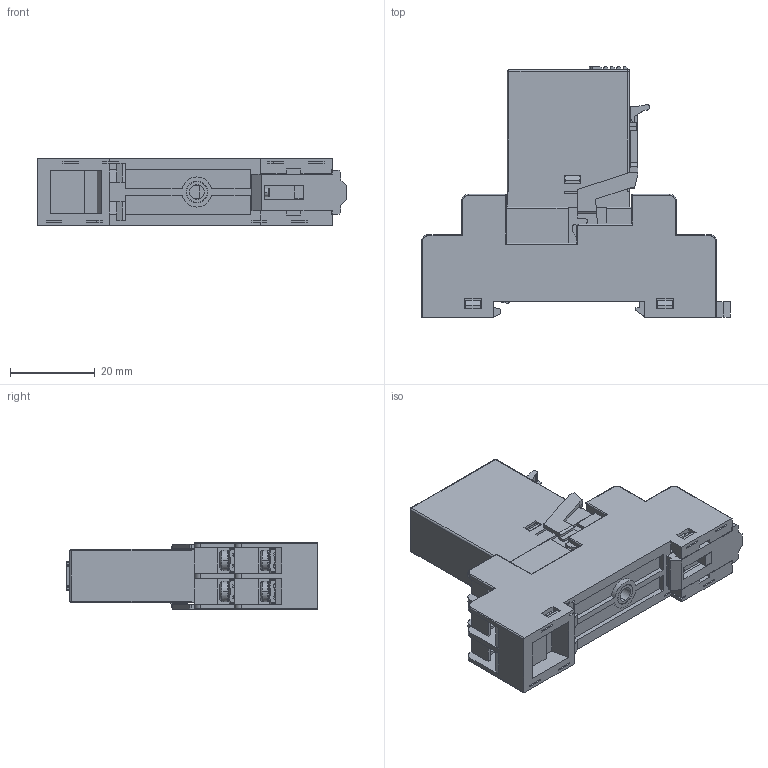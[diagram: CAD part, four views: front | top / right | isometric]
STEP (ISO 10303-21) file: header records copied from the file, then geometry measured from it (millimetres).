
FILE_DESCRIPTION (( 'STEP AP203' ), '1' );
FILE_NAME ('SRT08-E +RFT2COLT 俋倛.STEP', '2022-12-30T05:26:46', ( '' ), ( '' ), 'SwSTEP 2.0', 'SolidWorks 2018', '' );
FILE_SCHEMA (( 'CONFIG_CONTROL_DESIGN' ));
Products named in the file (3): RFT-2C-LT 俋倛; SRT08-E 俋倛^SRT08-E +RFT2COLT 俋倛; SRT08-E +RFT2COLT 俋倛
Assembly tree (2 placements, depth 2):
  SRT08-E +RFT2COLT 俋倛
    RFT-2C-LT 俋倛
    SRT08-E 俋倛^SRT08-E +RFT2COLT 俋倛
Bounding box: 72.9 x 59.15 x 15.8 mm (x, y, z)
Volume: 32350 mm3; surface area: 17133.3 mm2
Topology: 2 solids, 5 shells, 2715 faces, 7435 edges, 4679 vertices
Faces by surface type: plane 1328, cylinder 600, bspline 441, torus 166, cone 102, sphere 78
Entity records: 95848 total; most frequent: CARTESIAN_POINT 30767, ORIENTED_EDGE 14682, DIRECTION 11985, EDGE_CURVE 7341, VERTEX_POINT 4679, LINE 4199, VECTOR 4199, AXIS2_PLACEMENT_3D 3893
